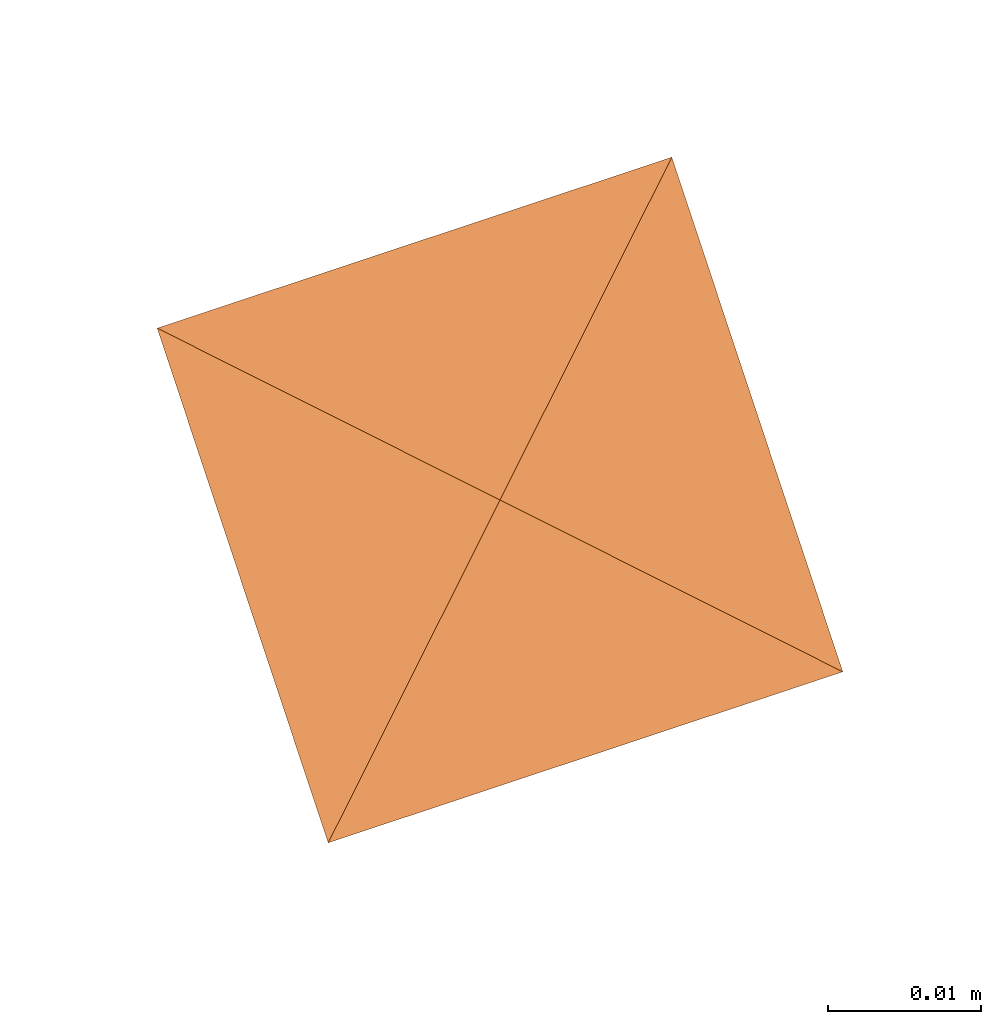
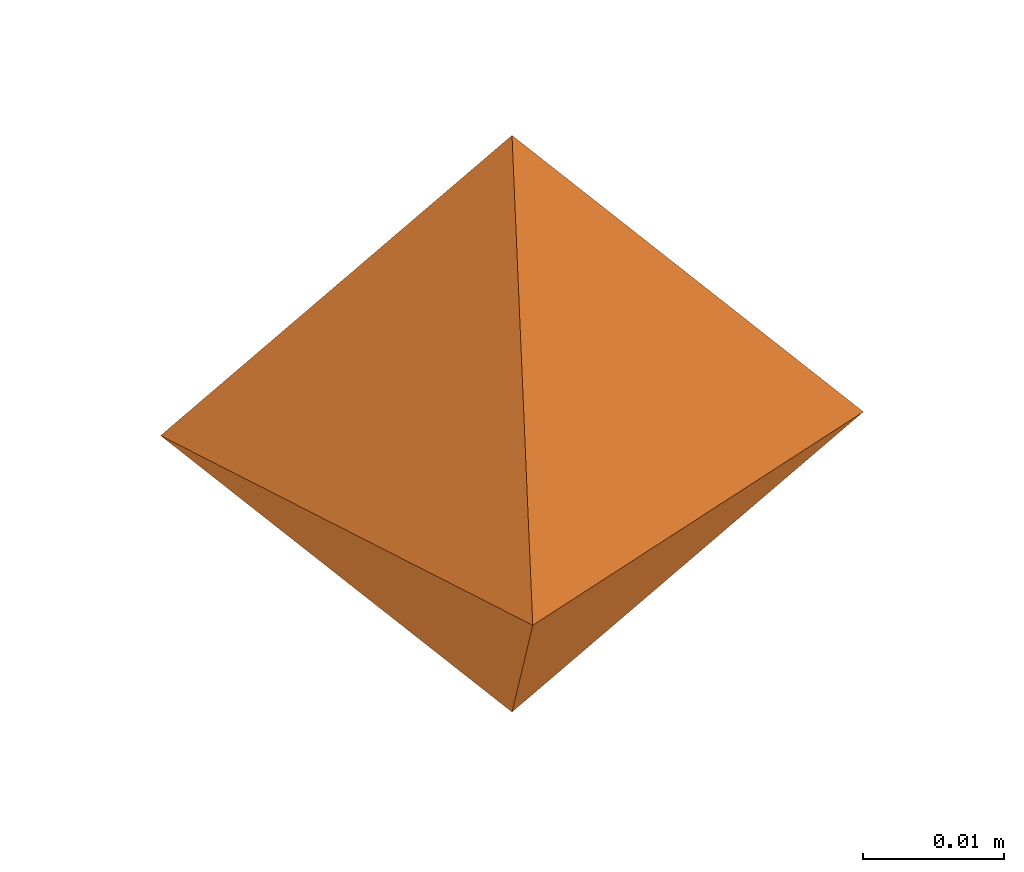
# One storey, part 193 of 206: 1 proxy.
"""IFC2X3 building model written with IfcOpenShell, lengths in metres."""

from ifc_helpers import new_model, si_unit, derived_unit, direction, frame, origin, place, context, subcontext, project, spatial, faceted_brep, type_object, element, save


model = new_model("IFC2X3")

# Units and contexts
model_context = context("Model", 3, precision=5.2338327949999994e-05, world=origin(), true_north=direction((0.0, 1.0)))
body_context = subcontext(model_context, "Body", "Model", "MODEL_VIEW")
ifc_project = project(units=[si_unit("LENGTHUNIT", "METRE"), si_unit("AREAUNIT", "SQUARE_METRE"), si_unit("VOLUMEUNIT", "CUBIC_METRE"), si_unit("MASSUNIT", "GRAM", prefix="KILO"), si_unit("PLANEANGLEUNIT", "RADIAN"), derived_unit("THERMALTRANSMITTANCEUNIT", [(si_unit("MASSUNIT", "GRAM", prefix="KILO"), 1), (si_unit("THERMODYNAMICTEMPERATUREUNIT", "KELVIN"), -1), (si_unit("TIMEUNIT", "SECOND"), -3)])], contexts=[model_context])

# Site, building, storey
site_placement = place(None, frame((0.0, 0.0, 0.0), z_axis=(0.0, 0.0, 1.0), x_axis=(0.8939966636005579, -0.4480736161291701, 0.0)))
site = spatial("IfcSite", under=ifc_project, at=site_placement, Name="Default", CompositionType="ELEMENT")
building_placement = place(site_placement, origin())
building = spatial("IfcBuilding", under=site, at=building_placement, CompositionType="ELEMENT")
storey_placement = place(building_placement, origin())
storey = spatial("IfcBuildingStorey", under=building, at=storey_placement, Name="Erdgeschoss", CompositionType="ELEMENT", Elevation=0.0)

# Proxy
building_element_proxy_type = type_object("IfcBuildingElementProxyType", Name="DirectShape:Gebäudeautomation", PredefinedType="NOTDEFINED")
proxy_placement = place(storey_placement, origin())
element("IfcBuildingElementProxy", 1, at=proxy_placement, inside=storey, type_object=building_element_proxy_type, Name="DirectShape:Wärmeerzeugung Vorlauffühler", context=body_context, shape_type="Brep", body=[
    faceted_brep([(28.322985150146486, 3.2454074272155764, 2.3189434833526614), (28.29798435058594, 3.2454074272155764, 2.3439435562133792), (28.322985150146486, 3.2704073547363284, 2.3439435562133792), (28.322985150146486, 3.2204074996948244, 2.3439435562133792), (28.347985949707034, 3.2454074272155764, 2.3439435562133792), (28.322985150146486, 3.2454074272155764, 2.3689434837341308)], [[[0, 1, 2]], [[0, 3, 1]], [[0, 4, 3]], [[0, 2, 4]], [[5, 2, 1]], [[5, 1, 3]], [[5, 3, 4]], [[5, 4, 2]]]),
])

save(model, "model.ifc")
